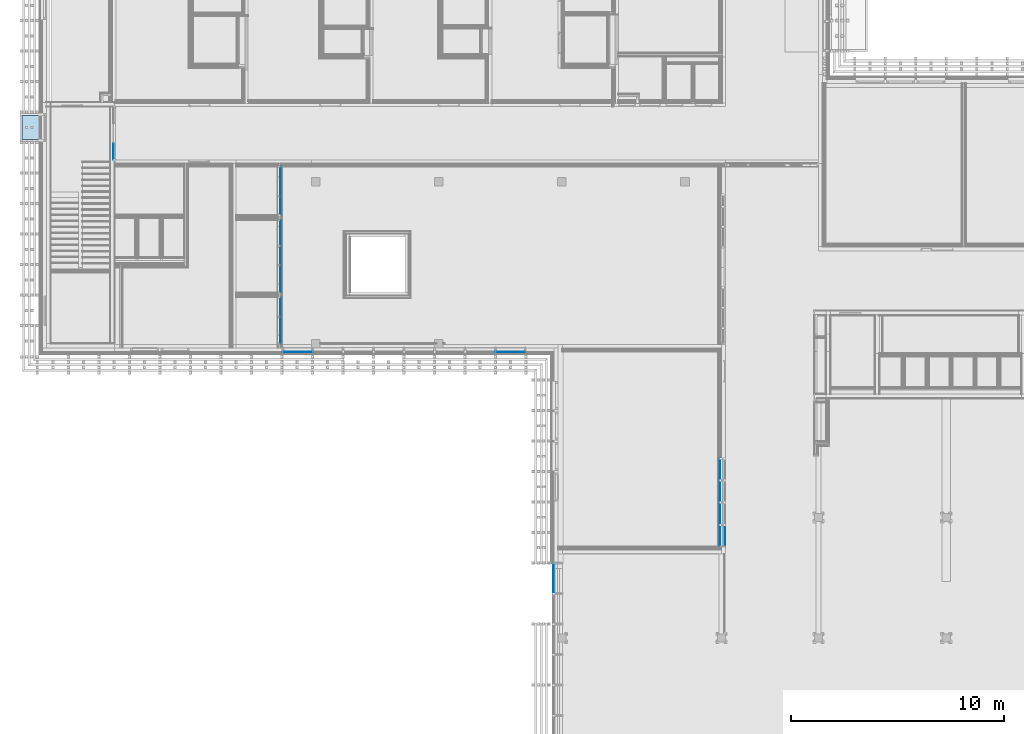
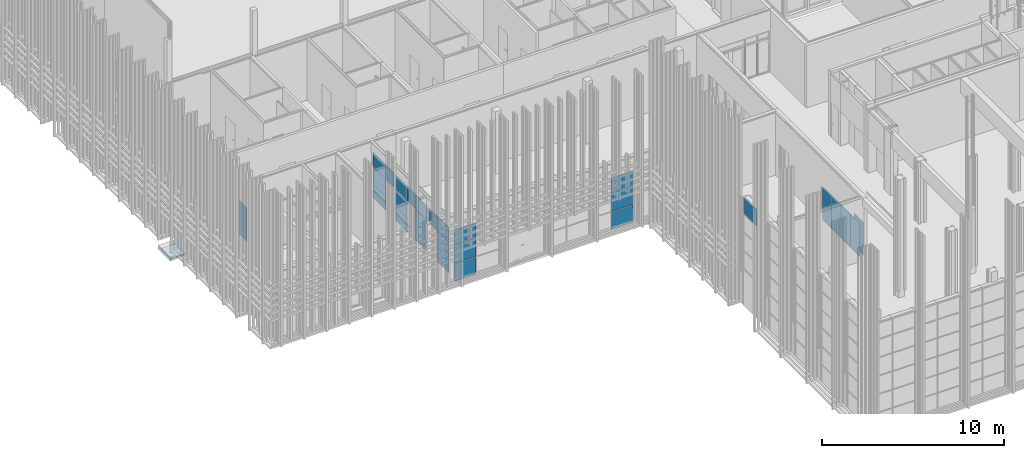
# One storey, part 105 of 260: 24 plates, 1 slab, 8 elements without a shape of their own.
"""IFC2X3 building model written with IfcOpenShell, lengths in millimetres."""

from ifc_helpers import new_model, entity, si_unit, converted_unit, derived_unit, money_unit, direction, frame, origin_with_axes, place, context, subcontext, project, spatial, faceted_brep, material, type_object, element, aggregate, save


model = new_model("IFC2X3")

# Units and contexts
model_context = context("Model", 3, precision=0.01, world=origin_with_axes(), true_north=direction((0.0, 1.0)))
body_context = subcontext(model_context, "Body", "Model", "MODEL_VIEW")
ifc_project = project(units=[si_unit("LENGTHUNIT", "METRE", prefix="MILLI"), si_unit("AREAUNIT", "SQUARE_METRE"), si_unit("VOLUMEUNIT", "CUBIC_METRE"), converted_unit("PLANEANGLEUNIT", "DEGREE", entity("IfcPlaneAngleMeasure", 0.0174532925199), si_unit("PLANEANGLEUNIT", "RADIAN"), dimensions=[0, 0, 0, 0, 0, 0, 0]), money_unit("EUR"), converted_unit("TIMEUNIT", "Year", entity("IfcTimeMeasure", 31556926.0), si_unit("TIMEUNIT", "SECOND"), dimensions=[0, 0, 1, 0, 0, 0, 0]), si_unit("MASSUNIT", "GRAM", prefix="KILO"), si_unit("THERMODYNAMICTEMPERATUREUNIT", "DEGREE_CELSIUS"), si_unit("LUMINOUSINTENSITYUNIT", "LUMEN"), si_unit("ENERGYUNIT", "JOULE", prefix="MEGA"), derived_unit("THERMALCONDUCTANCEUNIT", [(si_unit("POWERUNIT", "WATT"), 1), (si_unit("LENGTHUNIT", "METRE"), -1), (si_unit("THERMODYNAMICTEMPERATUREUNIT", "KELVIN"), -1)]), derived_unit("SPECIFICHEATCAPACITYUNIT", [(si_unit("ENERGYUNIT", "JOULE"), 1), (si_unit("MASSUNIT", "GRAM", prefix="KILO"), -1), (si_unit("THERMODYNAMICTEMPERATUREUNIT", "KELVIN"), -1)]), derived_unit("MASSDENSITYUNIT", [(si_unit("MASSUNIT", "GRAM", prefix="KILO"), 1), (si_unit("VOLUMEUNIT", "CUBIC_METRE"), -1)])], contexts=[model_context])

# Site, building, storey
site_placement = place(None, origin_with_axes())
site = spatial("IfcSite", under=ifc_project, at=site_placement, Name="Kolde pst 67a", CompositionType="ELEMENT")
building_placement = place(site_placement, origin_with_axes())
building = spatial("IfcBuilding", under=site, at=building_placement, Name="Riigigümnaasium", CompositionType="ELEMENT")
storey_placement = place(building_placement, origin_with_axes())
storey = spatial("IfcBuildingStorey", under=building, at=storey_placement, Name="1. korrus", CompositionType="ELEMENT", Elevation=0.0)

# Curtain wall, plate
curtain_wall_type = type_object("IfcCurtainWallType", Name="Curtain Wall Type", PredefinedType="NOTDEFINED")
curtain_wall_1_placement = place(storey_placement, frame((47829.9854655, 8727.77020058, -0.000749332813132), z_axis=(0.0, 0.0, 1.0), x_axis=(1.0, 0.0, 0.0)))
curtain_wall_1 = element("IfcCurtainWall", 1, at=curtain_wall_1_placement, inside=storey, type_object=curtain_wall_type, Name="KLAASFASSAAD")
ifc_material_1 = material(Name="_KLAAS - kirgas")
plate_type_1 = type_object("IfcPlateType", Name="Main Panel 915 x 1075 x 33", PredefinedType="NOTDEFINED")
plate_1_placement = place(curtain_wall_1_placement, frame((-23999.8819546, 28465.9752725, 6782.85727675), z_axis=(0.0, 0.0, 1.0), x_axis=(-7.64768489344e-06, -0.999999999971, 0.0)))
plate_1 = element("IfcPlate", 2, at=plate_1_placement, type_object=plate_type_1, material=ifc_material_1, Name="RF PANEEL PEAMINE-189", context=body_context, shape_type="Brep", body=[
    faceted_brep([(-746.752649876, 16.5, 447.14239557), (-746.752649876, -16.5, 447.14239557), (-241.298937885, -16.5, 447.142352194), (-241.298937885, 16.5, 447.142352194), (-746.752649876, 16.5, -627.856517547), (-746.752649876, -16.5, -627.856517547), (-241.298937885, -16.5, -627.856517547), (673.701047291, -16.5, -627.856517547), (673.701047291, -16.5, 447.142352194), (673.701047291, 16.5, 447.142352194), (673.701047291, 16.5, -627.856517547), (-241.298937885, 16.5, -627.856517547)], [[[0, 1, 2, 3]], [[4, 5, 1, 0]], [[1, 5, 6, 7, 8, 2]], [[3, 2, 8, 9]], [[0, 3, 9, 10, 11, 4]], [[11, 6, 5, 4]], [[10, 7, 6, 11]], [[9, 8, 7, 10]]]),
])
aggregate(curtain_wall_1, [plate_1])

# Curtain wall, plates
curtain_wall_2_placement = place(storey_placement, frame((20393.1746439, 47839.7660528, -0.000116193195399), z_axis=(0.0, 0.0, 1.0), x_axis=(1.0, 0.0, 0.0)))
curtain_wall_2 = element("IfcCurtainWall", 3, at=curtain_wall_2_placement, inside=storey, type_object=curtain_wall_type, Name="KLAASFASSAAD")
plate_type_2 = type_object("IfcPlateType", Name="Main Panel 1385 x 1220 x 33", PredefinedType="NOTDEFINED")
plate_2_placement = place(curtain_wall_2_placement, frame((1425.22323413, 0.0, 1845.00011619), z_axis=(0.0, 0.0, 1.0), x_axis=(1.0, 0.0, 0.0)))
plate_2 = element("IfcPlate", 4, at=plate_2_placement, type_object=plate_type_2, material=ifc_material_1, Name="RF PANEEL PEAMINE-987", context=body_context, shape_type="Brep", body=[
    faceted_brep([(-705.223240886, 16.5, 609.999995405), (-705.223240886, -16.5, 609.999995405), (680.223232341, -16.5, 609.999995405), (680.223232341, 16.5, 609.999995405), (-705.223240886, 16.5, -610.000006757), (-705.223240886, -16.5, -610.000006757), (680.223232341, -16.5, -610.000006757), (680.223232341, 16.5, -610.000006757)], [[[0, 1, 2, 3]], [[4, 5, 1, 0]], [[1, 5, 6, 2]], [[3, 2, 6, 7]], [[0, 3, 7, 4]], [[7, 6, 5, 4]]]),
])
plate_3_placement = place(curtain_wall_2_placement, frame((-8574.89717074, 0.0, 1845.00011619), z_axis=(0.0, 0.0, 1.0), x_axis=(1.0, 0.0, 0.0)))
plate_3 = element("IfcPlate", 5, at=plate_3_placement, type_object=plate_type_2, material=ifc_material_1, Name="RF PANEEL PEAMINE-994", context=body_context, shape_type="Brep", body=[
    faceted_brep([(-679.897168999, 16.5, 610.000004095), (-679.897168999, -16.5, 610.000004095), (704.897166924, -16.5, 610.000004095), (704.897166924, 16.5, 610.000004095), (-679.897168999, 16.5, -609.999996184), (-679.897168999, -16.5, -609.999996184), (704.897166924, -16.5, -609.999996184), (704.897166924, 16.5, -609.999996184)], [[[0, 1, 2, 3]], [[4, 5, 1, 0]], [[1, 5, 6, 2]], [[3, 2, 6, 7]], [[0, 3, 7, 4]], [[7, 6, 5, 4]]]),
])
plate_type_3 = type_object("IfcPlateType", Name="Main Panel 1385 x 995 x 33", PredefinedType="NOTDEFINED")
plate_4_placement = place(curtain_wall_2_placement, frame((1425.22325658, 0.0, 2975.00012984), z_axis=(0.0, 0.0, 1.0), x_axis=(1.0, 0.0, 0.0)))
plate_4 = element("IfcPlate", 6, at=plate_4_placement, type_object=plate_type_3, material=ifc_material_1, Name="RF PANEEL PEAMINE-996", context=body_context, shape_type="Brep", body=[
    faceted_brep([(-705.223263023, 16.5, 485.000010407), (-705.223263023, -16.5, 485.000010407), (680.223297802, -16.5, 485.000010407), (680.223297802, 16.5, 485.000010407), (-705.223263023, 16.5, -510.00002009), (-705.223263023, -16.5, -510.00002009), (680.223213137, -16.5, -510.00002009), (680.223213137, 16.5, -510.00002009)], [[[0, 1, 2, 3]], [[4, 5, 1, 0]], [[1, 5, 6, 2]], [[3, 2, 6, 7]], [[0, 3, 7, 4]], [[7, 6, 5, 4]]]),
])
plate_5_placement = place(curtain_wall_2_placement, frame((-8574.89717074, 0.0, 2975.00015597), z_axis=(0.0, 0.0, 1.0), x_axis=(1.0, 0.0, 0.0)))
plate_5 = element("IfcPlate", 7, at=plate_5_placement, type_object=plate_type_3, material=ifc_material_1, Name="RF PANEEL PEAMINE-003", context=body_context, shape_type="Brep", body=[
    faceted_brep([(-679.897168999, 16.5, 485.000025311), (-679.897168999, -16.5, 485.000025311), (704.897166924, -16.5, 485.000046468), (704.897166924, 16.5, 485.000046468), (-679.897168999, 16.5, -510.000035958), (-679.897168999, -16.5, -510.000035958), (704.897166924, -16.5, -510.000035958), (704.897166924, 16.5, -510.000035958)], [[[0, 1, 2, 3]], [[4, 5, 1, 0]], [[1, 5, 6, 2]], [[3, 2, 6, 7]], [[0, 3, 7, 4]], [[7, 6, 5, 4]]]),
])
plate_type_4 = type_object("IfcPlateType", Name="Turvaklaas 1385 x 1195 x 33", PredefinedType="CURTAIN_PANEL")
plate_6_placement = place(curtain_wall_2_placement, frame((-8574.89717074, 0.0, 615.000058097), z_axis=(0.0, 0.0, 1.0), x_axis=(1.0, 0.0, 0.0)))
plate_6 = element("IfcPlate", 8, at=plate_6_placement, type_object=plate_type_4, material=ifc_material_1, Name="Panel-Turvaklaas-005", ObjectType="CURTAIN_PANEL", context=body_context, shape_type="Brep", body=[
    faceted_brep([(-679.897168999, 16.5, 610.000051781), (-679.897168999, -16.5, 610.000051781), (704.897166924, -16.5, 610.000051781), (704.897166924, 16.5, 610.000051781), (-679.897168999, 16.5, -585.000056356), (-679.897168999, -16.5, -585.000056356), (704.897166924, -16.5, -585.000056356), (704.897166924, 16.5, -585.000056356)], [[[0, 1, 2, 3]], [[4, 5, 1, 0]], [[1, 5, 6, 2]], [[3, 2, 6, 7]], [[0, 3, 7, 4]], [[7, 6, 5, 4]]]),
])
plate_7_placement = place(curtain_wall_2_placement, frame((1425.22323413, 0.0, 615.000058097), z_axis=(0.0, 0.0, 1.0), x_axis=(1.0, 0.0, 0.0)))
plate_7 = element("IfcPlate", 9, at=plate_7_placement, type_object=plate_type_4, material=ifc_material_1, Name="Panel-Turvaklaas-006", ObjectType="CURTAIN_PANEL", context=body_context, shape_type="Brep", body=[
    faceted_brep([(-705.223240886, 16.5, 610.000064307), (-705.223240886, -16.5, 610.000064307), (680.223232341, -16.5, 610.000064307), (680.223232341, 16.5, 610.000064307), (-705.223240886, 16.5, -585.000056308), (-705.223240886, -16.5, -585.000056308), (680.223232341, -16.5, -585.000056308), (680.223232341, 16.5, -585.000056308)], [[[0, 1, 2, 3]], [[4, 5, 1, 0]], [[1, 5, 6, 2]], [[3, 2, 6, 7]], [[0, 3, 7, 4]], [[7, 6, 5, 4]]]),
])
aggregate(curtain_wall_2, [plate_2, plate_4, plate_6, plate_3, plate_7, plate_5])

# Curtain wall, plate
curtain_wall_3_placement = place(storey_placement, frame((11015.6058867, 55913.7308132, 399.999999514), z_axis=(0.0, 0.0, 1.0), x_axis=(1.0, 0.0, 0.0)))
curtain_wall_3 = element("IfcCurtainWall", 10, at=curtain_wall_3_placement, inside=storey, type_object=curtain_wall_type, Name="KLAASSEIN")
ifc_material_2 = material(Name="_GENEERILINE MATERJAL KLAAS")
plate_type_5 = type_object("IfcPlateType", Name="Distinct Panel 20 x 5 x 20", PredefinedType="NOTDEFINED")
plate_8_placement = place(curtain_wall_3_placement, frame((0.0, 0.0, 1050.00001335), z_axis=(0.0, 0.0, 1.0), x_axis=(1.11147909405e-05, 0.999999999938, 0.0)))
plate_8 = element("IfcPlate", 11, at=plate_8_placement, type_object=plate_type_5, material=ifc_material_2, Name="RF PANEEL ERI-052", context=body_context, shape_type="Brep", body=[
    faceted_brep([(-789.369953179, 10.0, 1050.00001286), (-789.369953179, -10.0, 1050.00001286), (-769.369935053, -10.0, 1050.00001286), (-769.369935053, 10.0, 1050.00001286), (-789.369953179, 10.0, -1050.00001286), (-789.369953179, -10.0, -1050.00001286), (-769.369935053, -10.0, -1050.00001286), (-769.369935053, -10.0, -1030.00002603), (130.630035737, -10.0, -1030.00002603), (618.739914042, -10.0, -1030.00002603), (618.739914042, -10.0, 1045.00000833), (130.630035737, -10.0, 1045.00000833), (-769.369935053, -10.0, 1045.00000833), (-769.369935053, 10.0, 1045.00000833), (130.630035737, 10.0, 1045.00000833), (618.739914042, 10.0, 1045.00000833), (618.739914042, 10.0, -1030.00002603), (130.630035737, 10.0, -1030.00002603), (-769.369935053, 10.0, -1030.00002603), (-769.369935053, 10.0, -1050.00001286)], [[[0, 1, 2, 3]], [[4, 5, 1, 0]], [[1, 5, 6, 7, 8, 9, 10, 11, 12, 2]], [[3, 2, 12, 13]], [[0, 3, 13, 14, 15, 16, 17, 18, 19, 4]], [[19, 6, 5, 4]], [[18, 7, 6, 19]], [[17, 8, 7, 18]], [[16, 9, 8, 17]], [[15, 10, 9, 16]], [[14, 11, 10, 15]], [[13, 12, 11, 14]]]),
])

curtain_wall_4_placement = place(storey_placement, frame((11015.3356079, 51182.3220161, 399.999976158), z_axis=(0.0, 0.0, 1.0), x_axis=(1.0, 0.0, 0.0)))
curtain_wall_4 = element("IfcCurtainWall", 12, at=curtain_wall_4_placement, inside=storey, type_object=curtain_wall_type, Name="KLAASSEIN")
plate_9_placement = place(curtain_wall_4_placement, frame((0.0, 0.0, 1050.00002776), z_axis=(0.0, 0.0, 1.0), x_axis=(-1.11147909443e-05, -0.999999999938, 0.0)))
plate_9 = element("IfcPlate", 13, at=plate_9_placement, type_object=plate_type_5, material=ifc_material_2, Name="RF PANEEL ERI-052", context=body_context, shape_type="Brep", body=[
    faceted_brep([(-714.685903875, -10.0, 1050.00000988), (-694.685885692, -10.0, 1050.00000988), (-694.685885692, 10.0, 1050.00000988), (-714.685903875, 10.0, 1050.00000988), (-714.685903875, -10.0, -1050.0000218), (-694.685885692, -10.0, -1050.0000218), (-694.685885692, -10.0, -1030.00003491), (142.344596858, -10.0, -1030.00003491), (532.343605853, -10.0, -1030.00003491), (532.343605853, -10.0, 1045.00000533), (142.344596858, -10.0, 1045.00000533), (-694.685885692, -10.0, 1045.00000533), (-694.685885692, 10.0, 1045.00000533), (142.344596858, 10.0, 1045.00000533), (532.343605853, 10.0, 1045.00000533), (532.343605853, 10.0, -1030.00003491), (142.344596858, 10.0, -1030.00003491), (-694.685885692, 10.0, -1030.00003491), (-694.685885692, 10.0, -1050.0000218), (-714.685903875, 10.0, -1050.0000218)], [[[0, 1, 2, 3]], [[0, 4, 5, 6, 7, 8, 9, 10, 11, 1]], [[1, 11, 12, 2]], [[3, 2, 12, 13, 14, 15, 16, 17, 18, 19]], [[4, 0, 3, 19]], [[5, 4, 19, 18]], [[6, 5, 18, 17]], [[7, 6, 17, 16]], [[8, 7, 16, 15]], [[9, 8, 15, 14]], [[10, 9, 14, 13]], [[11, 10, 13, 12]]]),
])

curtain_wall_5_placement = place(storey_placement, frame((11015.4348778, 48773.3132292, 399.999999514), z_axis=(0.0, 0.0, 1.0), x_axis=(1.0, 0.0, 0.0)))
curtain_wall_5 = element("IfcCurtainWall", 14, at=curtain_wall_5_placement, inside=storey, type_object=curtain_wall_type, Name="KLAASSEIN")
plate_10_placement = place(curtain_wall_5_placement, frame((0.0, 0.0, 1050.0000131), z_axis=(0.0, 0.0, 1.0), x_axis=(1.09154223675e-05, -0.99999999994, 0.0)))
plate_10 = element("IfcPlate", 15, at=plate_10_placement, type_object=plate_type_5, material=ifc_material_2, Name="RF PANEEL ERI-053", context=body_context, shape_type="Brep", body=[
    faceted_brep([(-736.666201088, -10.0, 1050.0000131), (-716.666182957, -10.0, 1050.0000131), (-716.666182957, 10.0, 1050.0000131), (-736.666201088, 10.0, 1050.0000131), (-736.666201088, -10.0, -1050.0000131), (-716.666182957, -10.0, -1050.0000131), (-716.666182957, -10.0, -1030.00002626), (143.333814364, -10.0, -1030.00002626), (553.332402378, -10.0, -1030.00002626), (553.332402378, -10.0, 1045.00000857), (143.333814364, -10.0, 1045.00000857), (-716.666182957, -10.0, 1045.00000857), (-716.666182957, 10.0, 1045.00000857), (143.333814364, 10.0, 1045.00000857), (553.332402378, 10.0, 1045.00000857), (553.332402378, 10.0, -1030.00002626), (143.333814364, 10.0, -1030.00002626), (-716.666182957, 10.0, -1030.00002626), (-716.666182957, 10.0, -1050.0000131), (-736.666201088, 10.0, -1050.0000131)], [[[0, 1, 2, 3]], [[0, 4, 5, 6, 7, 8, 9, 10, 11, 1]], [[1, 11, 12, 2]], [[3, 2, 12, 13, 14, 15, 16, 17, 18, 19]], [[4, 0, 3, 19]], [[5, 4, 19, 18]], [[6, 5, 18, 17]], [[7, 6, 17, 16]], [[8, 7, 16, 15]], [[9, 8, 15, 14]], [[10, 9, 14, 13]], [[11, 10, 13, 12]]]),
])

curtain_wall_6_placement = place(storey_placement, frame((3185.44852283, 58094.9979478, 0.0), z_axis=(0.0, 0.0, 1.0), x_axis=(1.0, 0.0, 0.0)))
curtain_wall_6 = element("IfcCurtainWall", 16, at=curtain_wall_6_placement, inside=storey, type_object=curtain_wall_type, Name="KLAASSEIN")
plate_type_6 = type_object("IfcPlateType", Name="Distinct Panel 20 x 2300 x 20", PredefinedType="NOTDEFINED")
plate_11_placement = place(curtain_wall_6_placement, frame((0.0, -877.500004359, 1150.0000447), z_axis=(0.0, 0.0, 1.0), x_axis=(0.0, 1.0, 0.0)))
plate_11 = element("IfcPlate", 17, at=plate_11_placement, type_object=plate_type_6, material=ifc_material_2, Name="RF PANEEL ERI-051", context=body_context, shape_type="Brep", body=[
    faceted_brep([(377.499996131, -10.0, 1150.0000447), (397.500004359, -10.0, 1150.0000447), (397.500004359, 10.0, 1150.0000447), (377.499996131, 10.0, 1150.0000447), (377.499996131, -10.0, 1130.00003648), (-357.5000235, -10.0, 1130.00003648), (-357.5000235, -10.0, -1130.00003648), (377.499996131, -10.0, -1130.00003648), (377.499996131, -10.0, -1150.0000447), (397.500004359, -10.0, -1150.0000447), (397.500004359, 10.0, -1150.0000447), (377.499996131, 10.0, -1150.0000447), (377.499996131, 10.0, -1130.00003648), (-357.5000235, 10.0, -1130.00003648), (-357.5000235, 10.0, 1130.00003648), (377.499996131, 10.0, 1130.00003648)], [[[0, 1, 2, 3]], [[0, 4, 5, 6, 7, 8, 9, 1]], [[1, 9, 10, 2]], [[3, 2, 10, 11, 12, 13, 14, 15]], [[4, 0, 3, 15]], [[5, 4, 15, 14]], [[6, 5, 14, 13]], [[7, 6, 13, 12]], [[8, 7, 12, 11]], [[9, 8, 11, 10]]]),
])
aggregate(curtain_wall_6, [plate_11])

# Plate
plate_type_7 = type_object("IfcPlateType", Name="Distinct Panel 20 x 20 x 20", PredefinedType="NOTDEFINED")
plate_12_placement = place(curtain_wall_3_placement, frame((0.0, -2.86575385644e-06, 2595.00002728), z_axis=(0.0, 0.0, 1.0), x_axis=(1.11147909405e-05, 0.999999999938, 0.0)))
plate_12 = element("IfcPlate", 18, at=plate_12_placement, type_object=plate_type_7, material=ifc_material_2, Name="RF PANEEL ERI-060", context=body_context, shape_type="Brep", body=[
    faceted_brep([(-789.369947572, 10.0, 494.999996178), (-789.369947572, -10.0, 494.999996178), (-769.369939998, -10.0, 494.999996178), (-769.369939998, 10.0, 494.999996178), (-789.369947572, 10.0, -495.000001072), (-789.369947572, -10.0, -495.000001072), (-769.369939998, -10.0, -495.000001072), (-769.369939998, -10.0, -489.999999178), (130.630065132, -10.0, -489.999999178), (618.739896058, -10.0, -489.999999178), (618.739896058, -10.0, 474.999988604), (130.630065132, -10.0, 474.999988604), (-769.369939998, -10.0, 474.999988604), (-769.369939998, 10.0, 474.999988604), (130.630065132, 10.0, 474.999988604), (618.739896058, 10.0, 474.999988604), (618.739896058, 10.0, -489.999999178), (130.630065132, 10.0, -489.999999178), (-769.369939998, 10.0, -489.999999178), (-769.369939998, 10.0, -495.000001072)], [[[0, 1, 2, 3]], [[4, 5, 1, 0]], [[1, 5, 6, 7, 8, 9, 10, 11, 12, 2]], [[3, 2, 12, 13]], [[0, 3, 13, 14, 15, 16, 17, 18, 19, 4]], [[19, 6, 5, 4]], [[18, 7, 6, 19]], [[17, 8, 7, 18]], [[16, 9, 8, 17]], [[15, 10, 9, 16]], [[14, 11, 10, 15]], [[13, 12, 11, 14]]]),
])

plate_13_placement = place(curtain_wall_4_placement, frame((0.0, -1.88781967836e-06, 2595.00003994), z_axis=(0.0, 0.0, 1.0), x_axis=(-1.11147909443e-05, -0.999999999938, 0.0)))
plate_13 = element("IfcPlate", 19, at=plate_13_placement, type_object=plate_type_7, material=ifc_material_2, Name="RF PANEEL ERI-061", context=body_context, shape_type="Brep", body=[
    faceted_brep([(-714.68590318, -10.0, 495.0000105), (-694.685894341, -10.0, 495.0000105), (-694.685894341, 10.0, 495.0000105), (-714.68590318, 10.0, 495.0000105), (-714.68590318, -10.0, -494.999990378), (-694.685894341, -10.0, -494.999990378), (-694.685894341, -10.0, -489.999983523), (142.344594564, -10.0, -489.999983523), (532.343586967, -10.0, -489.999983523), (532.343586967, -10.0, 474.999945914), (142.344594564, -10.0, 475.000001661), (-694.685894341, -10.0, 475.000001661), (-694.685894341, 10.0, 475.000001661), (142.344594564, 10.0, 475.000001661), (532.343586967, 10.0, 474.999945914), (532.343586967, 10.0, -489.999983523), (142.344594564, 10.0, -489.999983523), (-694.685894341, 10.0, -489.999983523), (-694.685894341, 10.0, -494.999990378), (-714.68590318, 10.0, -494.999990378)], [[[0, 1, 2, 3]], [[0, 4, 5, 6, 7, 8, 9, 10, 11, 1]], [[1, 11, 12, 2]], [[3, 2, 12, 13, 14, 15, 16, 17, 18, 19]], [[4, 0, 3, 19]], [[5, 4, 19, 18]], [[6, 5, 18, 17]], [[7, 6, 17, 16]], [[8, 7, 16, 15]], [[9, 8, 15, 14]], [[10, 9, 14, 13]], [[11, 10, 13, 12]]]),
])

plate_14_placement = place(curtain_wall_4_placement, frame((0.0112890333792, 1015.67662754, 2595.00005063), z_axis=(0.0, 0.0, 1.0), x_axis=(-1.11147909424e-05, -0.999999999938, 0.0)))
plate_14 = element("IfcPlate", 20, at=plate_14_placement, type_object=plate_type_7, material=ifc_material_2, Name="RF PANEEL ERI-064", context=body_context, shape_type="Brep", body=[
    faceted_brep([(-599.01014661, -10.0, 495.000001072), (-579.010151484, -10.0, 495.000001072), (-579.010151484, 10.0, 495.000001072), (-599.01014661, 10.0, 495.000001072), (-599.010161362, -10.0, -495.000001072), (-579.010151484, -10.0, -495.000001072), (-579.010151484, -10.0, -490.000005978), (258.020328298, -10.0, -490.000005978), (320.989835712, -10.0, -490.000005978), (320.98982096, -10.0, -495.000001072), (340.989830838, -10.0, -495.000001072), (340.989830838, -10.0, 495.000001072), (320.989835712, -10.0, 495.000001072), (320.989835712, -10.0, 475.000005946), (258.020328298, -10.0, 475.000005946), (-579.010151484, -10.0, 475.000005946), (-579.010151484, 10.0, 475.000005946), (258.020328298, 10.0, 475.000005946), (320.989835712, 10.0, 475.000005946), (320.989835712, 10.0, 495.000001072), (340.989830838, 10.0, 495.000001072), (340.989830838, 10.0, -495.000001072), (320.98982096, 10.0, -495.000001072), (320.989835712, 10.0, -490.000005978), (258.020328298, 10.0, -490.000005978), (-579.010151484, 10.0, -490.000005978), (-579.010151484, 10.0, -495.000001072), (-599.010161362, 10.0, -495.000001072)], [[[0, 1, 2, 3]], [[0, 4, 5, 6, 7, 8, 9, 10, 11, 12, 13, 14, 15, 1]], [[1, 15, 16, 2]], [[3, 2, 16, 17, 18, 19, 20, 21, 22, 23, 24, 25, 26, 27]], [[4, 0, 3, 27]], [[5, 4, 27, 26]], [[6, 5, 26, 25]], [[7, 6, 25, 24]], [[8, 7, 24, 23]], [[9, 8, 23, 22]], [[10, 9, 22, 21]], [[11, 10, 21, 20]], [[12, 11, 20, 19]], [[13, 12, 19, 18]], [[14, 13, 18, 17]], [[15, 14, 17, 16]]]),
])

plate_15_placement = place(curtain_wall_5_placement, frame((-0.00124227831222, 113.80945866, 2524.28574139), z_axis=(0.0, 0.0, 1.0), x_axis=(1.09154223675e-05, -0.99999999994, 0.0)))
plate_15 = element("IfcPlate", 21, at=plate_15_placement, type_object=plate_type_7, material=ifc_material_2, Name="RF PANEEL ERI-060", context=body_context, shape_type="Brep", body=[
    faceted_brep([(-662.856737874, -10.0, 565.714283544), (-642.856737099, -10.0, 565.714283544), (-642.856737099, 10.0, 565.714283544), (-662.856737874, 10.0, 565.714283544), (-662.856737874, -10.0, -424.285715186), (-642.856737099, -10.0, -424.285715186), (-642.856737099, -10.0, -419.285714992), (-602.856735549, -10.0, -419.285714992), (257.143258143, -10.0, -419.285714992), (667.141847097, -10.0, -419.285714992), (667.141847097, -10.0, 545.714282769), (257.143258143, -10.0, 545.714282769), (-642.856737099, -10.0, 545.714282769), (-642.856737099, 10.0, 545.714282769), (257.143258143, 10.0, 545.714282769), (667.141847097, 10.0, 545.714282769), (667.141847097, 10.0, -419.285714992), (257.143258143, 10.0, -419.285714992), (-602.856735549, 10.0, -419.285714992), (-642.856737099, 10.0, -419.285714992), (-642.856737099, 10.0, -424.285715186), (-662.856737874, 10.0, -424.285715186)], [[[0, 1, 2, 3]], [[0, 4, 5, 6, 7, 8, 9, 10, 11, 12, 1]], [[1, 12, 13, 2]], [[3, 2, 13, 14, 15, 16, 17, 18, 19, 20, 21]], [[4, 0, 3, 21]], [[5, 4, 21, 20]], [[6, 5, 20, 19]], [[7, 6, 19, 18]], [[8, 7, 18, 17]], [[9, 8, 17, 16]], [[10, 9, 16, 15]], [[11, 10, 15, 14]], [[12, 11, 14, 13]]]),
])

# Curtain wall, plates
curtain_wall_7_placement = place(storey_placement, frame((31639.955711, 40257.4808267, -4.08979272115e-05), z_axis=(0.0, 0.0, 1.0), x_axis=(1.0, 0.0, 0.0)))
curtain_wall_7 = element("IfcCurtainWall", 22, at=curtain_wall_7_placement, inside=storey, type_object=curtain_wall_type, Name="KLAASSEIN")
plate_type_8 = type_object("IfcPlateType", Name="Distinct Panel 1035 x 2240 x 20", PredefinedType="NOTDEFINED")
plate_16_placement = place(curtain_wall_7_placement, frame((0.0, 0.0, 1150.00010566), z_axis=(0.0, 0.0, 1.0), x_axis=(0.0, -1.0, 0.0)))
plate_16 = element("IfcPlate", 23, at=plate_16_placement, type_object=plate_type_8, material=ifc_material_2, Name="RF PANEEL ERI-026", context=body_context, shape_type="Brep", body=[
    faceted_brep([(-517.499999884, 10.0, 1120.0001017), (-517.499999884, -10.0, 1120.0001017), (517.499989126, -10.0, 1120.0001017), (517.499989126, 10.0, 1120.0001017), (-517.499999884, 10.0, -1120.00010896), (-517.499999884, -10.0, -1120.00010896), (517.499989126, -10.0, -1120.00010896), (517.499989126, 10.0, -1120.00010896)], [[[0, 1, 2, 3]], [[4, 5, 1, 0]], [[1, 5, 6, 2]], [[3, 2, 6, 7]], [[0, 3, 7, 4]], [[7, 6, 5, 4]]]),
])
plate_17_placement = place(curtain_wall_7_placement, frame((0.0, 1045.0, 1150.00010566), z_axis=(0.0, 0.0, 1.0), x_axis=(0.0, -1.0, 0.0)))
plate_17 = element("IfcPlate", 24, at=plate_17_placement, type_object=plate_type_8, material=ifc_material_2, Name="RF PANEEL ERI-027", context=body_context, shape_type="Brep", body=[
    faceted_brep([(-517.499999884, 10.0, 1120.0001017), (-517.499999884, -10.0, 1120.0001017), (517.499989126, -10.0, 1120.0001017), (517.499989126, 10.0, 1120.0001017), (-517.499999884, 10.0, -1120.00010896), (-517.499999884, -10.0, -1120.00010896), (517.499989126, -10.0, -1120.00010896), (517.499989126, 10.0, -1120.00010896)], [[[0, 1, 2, 3]], [[4, 5, 1, 0]], [[1, 5, 6, 2]], [[3, 2, 6, 7]], [[0, 3, 7, 4]], [[7, 6, 5, 4]]]),
])

# Curtain wall, plate
curtain_wall_8_placement = place(storey_placement, frame((31858.898599, 40257.4808267, -3.66549283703e-05), z_axis=(0.0, 0.0, 1.0), x_axis=(1.0, 0.0, 0.0)))
curtain_wall_8 = element("IfcCurtainWall", 25, at=curtain_wall_8_placement, inside=storey, type_object=curtain_wall_type, Name="KLAASSEIN")
plate_type_9 = type_object("IfcPlateType", Name="Distinct Panel 999 x 2240 x 20", PredefinedType="NOTDEFINED")
plate_18_placement = place(curtain_wall_8_placement, frame((0.0, -1039.49984757, 1150.00010203), z_axis=(0.0, 0.0, 1.0), x_axis=(0.0, -1.0, 0.0)))
plate_18 = element("IfcPlate", 26, at=plate_18_placement, type_object=plate_type_9, material=ifc_material_2, Name="RF PANEEL ERI-025", context=body_context, shape_type="Brep", body=[
    faceted_brep([(-511.99984735, -10.0, 1120.00010533), (486.999850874, -10.0, 1120.00010533), (486.999850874, 10.0, 1120.00010533), (-511.99984735, 10.0, 1120.00010533), (-511.99984735, -10.0, -1120.00010533), (486.999850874, -10.0, -1120.00010533), (486.999850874, 10.0, -1120.00010533), (-511.99984735, 10.0, -1120.00010533)], [[[0, 1, 2, 3]], [[0, 4, 5, 1]], [[1, 5, 6, 2]], [[3, 2, 6, 7]], [[4, 0, 3, 7]], [[5, 4, 7, 6]]]),
])
aggregate(curtain_wall_8, [plate_18])

# Plate
plate_19_placement = place(curtain_wall_7_placement, frame((0.0, -1039.49983621, 1150.00010566), z_axis=(0.0, 0.0, 1.0), x_axis=(0.0, -1.0, 0.0)))
plate_19 = element("IfcPlate", 27, at=plate_19_placement, type_object=plate_type_9, material=ifc_material_2, Name="RF PANEEL ERI-025", context=body_context, shape_type="Brep", body=[
    faceted_brep([(-511.999835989, 10.0, 1120.0001017), (-511.999835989, -10.0, 1120.0001017), (486.999862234, -10.0, 1120.0001017), (486.999862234, 10.0, 1120.0001017), (-511.999835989, 10.0, -1120.00010896), (-511.999835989, -10.0, -1120.00010896), (486.999862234, -10.0, -1120.00010896), (486.999862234, 10.0, -1120.00010896)], [[[0, 1, 2, 3]], [[4, 5, 1, 0]], [[1, 5, 6, 2]], [[3, 2, 6, 7]], [[0, 3, 7, 4]], [[7, 6, 5, 4]]]),
])

plate_type_10 = type_object("IfcPlateType", Name="Distinct Panel 1010 x 2240 x 20", PredefinedType="NOTDEFINED")
plate_20_placement = place(curtain_wall_7_placement, frame((0.0, 2089.83864575, 1150.00010566), z_axis=(0.0, 0.0, 1.0), x_axis=(0.0, -1.0, 0.0)))
plate_20 = element("IfcPlate", 28, at=plate_20_placement, type_object=plate_type_10, material=ifc_material_2, Name="RF PANEEL ERI-029", context=body_context, shape_type="Brep", body=[
    faceted_brep([(-492.338656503, 10.0, 1120.0001017), (-492.338656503, -10.0, 1120.0001017), (517.338634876, -10.0, 1120.0001017), (517.338634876, 10.0, 1120.0001017), (-492.338656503, 10.0, -1120.00010896), (-492.338656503, -10.0, -1120.00010896), (517.338634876, -10.0, -1120.00010896), (517.338634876, 10.0, -1120.00010896)], [[[0, 1, 2, 3]], [[4, 5, 1, 0]], [[1, 5, 6, 2]], [[3, 2, 6, 7]], [[0, 3, 7, 4]], [[7, 6, 5, 4]]]),
])

aggregate(curtain_wall_7, [plate_16, plate_17, plate_19, plate_20])

plate_type_11 = type_object("IfcPlateType", Name="Distinct Panel 20 x 990 x 20", PredefinedType="NOTDEFINED")
plate_21_placement = place(curtain_wall_3_placement, frame((-0.0135530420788, -1219.36995036, 2595.00002728), z_axis=(0.0, 0.0, 1.0), x_axis=(1.11147909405e-05, 0.999999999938, 0.0)))
plate_21 = element("IfcPlate", 29, at=plate_21_placement, type_object=plate_type_11, material=ifc_material_2, Name="RF PANEEL ERI-058", context=body_context, shape_type="Brep", body=[
    faceted_brep([(450.000004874, 10.0, 495.000001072), (450.000004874, -10.0, 495.000001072), (470.0, -10.0, 495.000001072), (470.0, 10.0, 495.000001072), (450.000004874, 10.0, 475.000005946), (450.000004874, -10.0, 475.000005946), (-430.000001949, -10.0, 475.000005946), (-430.000001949, -10.0, -490.000005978), (450.000004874, -10.0, -490.000005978), (450.000004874, -10.0, -495.000001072), (470.0, -10.0, -495.000001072), (470.0, 10.0, -495.000001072), (450.000004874, 10.0, -495.000001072), (450.000004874, 10.0, -490.000005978), (-430.000001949, 10.0, -490.000005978), (-430.000001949, 10.0, 475.000005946)], [[[0, 1, 2, 3]], [[4, 5, 1, 0]], [[1, 5, 6, 7, 8, 9, 10, 2]], [[3, 2, 10, 11]], [[0, 3, 11, 12, 13, 14, 15, 4]], [[15, 6, 5, 4]], [[14, 7, 6, 15]], [[13, 8, 7, 14]], [[12, 9, 8, 13]], [[11, 10, 9, 12]]]),
])

aggregate(curtain_wall_3, [plate_8, plate_12, plate_21])

plate_22_placement = place(curtain_wall_4_placement, frame((0.0240987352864, 2168.1681113, 2595.00004202), z_axis=(0.0, 0.0, 1.0), x_axis=(-1.11147909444e-05, -0.999999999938, 0.0)))
plate_22 = element("IfcPlate", 30, at=plate_22_placement, type_object=plate_type_11, material=ifc_material_2, Name="RF PANEEL ERI-060", context=body_context, shape_type="Brep", body=[
    faceted_brep([(573.481329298, -10.0, 495.000011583), (593.48133167, -10.0, 495.000011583), (593.48133167, 10.0, 495.000011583), (573.481329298, 10.0, 495.000011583), (573.481329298, -10.0, 475.000009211), (510.51180808, -10.0, 475.000009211), (-389.48818529, -10.0, 475.000009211), (-674.504950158, -10.0, 474.999933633), (-674.504950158, -10.0, -490.000001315), (-389.48818529, -10.0, -490.000001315), (510.51180808, -10.0, -490.000001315), (573.481329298, -10.0, -490.000001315), (573.481329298, -10.0, -494.999992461), (593.48133167, -10.0, -494.999992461), (593.48133167, 10.0, -494.999992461), (573.481329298, 10.0, -494.999992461), (573.481329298, 10.0, -490.000001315), (510.51180808, 10.0, -490.000001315), (-389.48818529, 10.0, -490.000001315), (-674.504950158, 10.0, -490.000001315), (-674.504950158, 10.0, 474.999933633), (-389.48818529, 10.0, 475.000009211), (510.51180808, 10.0, 475.000009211), (573.481329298, 10.0, 475.000009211)], [[[0, 1, 2, 3]], [[0, 4, 5, 6, 7, 8, 9, 10, 11, 12, 13, 1]], [[1, 13, 14, 2]], [[3, 2, 14, 15, 16, 17, 18, 19, 20, 21, 22, 23]], [[4, 0, 3, 23]], [[5, 4, 23, 22]], [[6, 5, 22, 21]], [[7, 6, 21, 20]], [[8, 7, 20, 19]], [[9, 8, 19, 18]], [[10, 9, 18, 17]], [[11, 10, 17, 16]], [[12, 11, 16, 15]], [[13, 12, 15, 14]]]),
])

plate_23_placement = place(curtain_wall_5_placement, frame((-0.0131712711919, 1206.66619647, 2595.00002728), z_axis=(0.0, 0.0, 1.0), x_axis=(1.09154223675e-05, -0.99999999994, 0.0)))
plate_23 = element("IfcPlate", 31, at=plate_23_placement, type_object=plate_type_11, material=ifc_material_2, Name="RF PANEEL ERI-058", context=body_context, shape_type="Brep", body=[
    faceted_brep([(450.000004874, -10.0, 495.000001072), (470.0, -10.0, 495.000001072), (470.0, 10.0, 495.000001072), (450.000004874, 10.0, 495.000001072), (450.000004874, -10.0, 475.000005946), (-430.000001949, -10.0, 475.000005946), (-430.000001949, -10.0, -490.000005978), (450.000004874, -10.0, -490.000005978), (450.000004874, -10.0, -495.000001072), (470.0, -10.0, -495.000001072), (470.0, 10.0, -495.000001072), (450.000004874, 10.0, -495.000001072), (450.000004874, 10.0, -490.000005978), (-430.000001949, 10.0, -490.000005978), (-430.000001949, 10.0, 475.000005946), (450.000004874, 10.0, 475.000005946)], [[[0, 1, 2, 3]], [[0, 4, 5, 6, 7, 8, 9, 1]], [[1, 9, 10, 2]], [[3, 2, 10, 11, 12, 13, 14, 15]], [[4, 0, 3, 15]], [[5, 4, 15, 14]], [[6, 5, 14, 13]], [[7, 6, 13, 12]], [[8, 7, 12, 11]], [[9, 8, 11, 10]]]),
])

aggregate(curtain_wall_5, [plate_10, plate_15, plate_23])

plate_type_12 = type_object("IfcPlateType", Name="Distinct Panel 20 x 2100 x 20", PredefinedType="NOTDEFINED")
plate_24_placement = place(curtain_wall_4_placement, frame((0.0240987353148, 2168.16811393, 1050.00002776), z_axis=(0.0, 0.0, 1.0), x_axis=(-1.11147909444e-05, -0.999999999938, 0.0)))
plate_24 = element("IfcPlate", 32, at=plate_24_placement, type_object=plate_type_12, material=ifc_material_2, Name="RF PANEEL ERI-058", context=body_context, shape_type="Brep", body=[
    faceted_brep([(573.481338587, -10.0, 1050.0000218), (593.481325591, -10.0, 1050.0000218), (593.481325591, 10.0, 1050.0000218), (573.481338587, 10.0, 1050.0000218), (573.481338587, -10.0, 1045.00001723), (510.511816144, -10.0, 1045.00001723), (-389.488162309, -10.0, 1045.00001723), (-674.50494546, -10.0, 1045.00001723), (-674.50494546, -10.0, -1030.0000348), (-389.488162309, -10.0, -1030.0000348), (510.511816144, -10.0, -1030.0000348), (573.481338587, -10.0, -1030.0000348), (573.481338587, -10.0, -1050.0000218), (593.481325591, -10.0, -1050.0000218), (593.481325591, 10.0, -1050.0000218), (573.481338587, 10.0, -1050.0000218), (573.481338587, 10.0, -1030.0000348), (510.511816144, 10.0, -1030.0000348), (-389.488162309, 10.0, -1030.0000348), (-674.50494546, 10.0, -1030.0000348), (-674.50494546, 10.0, 1045.00001723), (-389.488162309, 10.0, 1045.00001723), (510.511816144, 10.0, 1045.00001723), (573.481338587, 10.0, 1045.00001723)], [[[0, 1, 2, 3]], [[0, 4, 5, 6, 7, 8, 9, 10, 11, 12, 13, 1]], [[1, 13, 14, 2]], [[3, 2, 14, 15, 16, 17, 18, 19, 20, 21, 22, 23]], [[4, 0, 3, 23]], [[5, 4, 23, 22]], [[6, 5, 22, 21]], [[7, 6, 21, 20]], [[8, 7, 20, 19]], [[9, 8, 19, 18]], [[10, 9, 18, 17]], [[11, 10, 17, 16]], [[12, 11, 16, 15]], [[13, 12, 15, 14]]]),
])

aggregate(curtain_wall_4, [plate_9, plate_24, plate_13, plate_14, plate_22])

# Slab
ifc_material_3 = material(Name="_KANDETARIND - monoliitne raudbetoon vastavalt EK osale")
slab_type = type_object("IfcSlabType", Name="_KANDETARIND - monoliitne raudbetoon vastavalt EK osale 100", PredefinedType="NOTDEFINED")
slab_placement = place(storey_placement, frame((-1089.18198413, 58929.7744778, -202.0), z_axis=(0.0, 0.0, 1.0), x_axis=(1.0, 0.0, 0.0)))
element("IfcSlab", 33, at=slab_placement, inside=storey, type_object=slab_type, material=ifc_material_3, Name="Porivann, monoliitne raudbetoon vastavalt EK osale", PredefinedType="NOTDEFINED", context=body_context, shape_type="Brep", body=[
    faceted_brep([(0.0, 0.0, 0.0), (0.0, 0.0, -100.0), (0.00596714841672, -1110.00000019, -100.0), (0.00596714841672, -1110.00000019, 0.0), (917.84210809, 0.0049341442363, 0.0), (917.84210809, 0.0049341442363, -100.0), (917.848075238, -1109.99506604, -100.0), (917.848075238, -1109.99506604, 0.0)], [[[0, 1, 2, 3]], [[4, 5, 1, 0]], [[2, 1, 5, 6]], [[3, 2, 6, 7]], [[4, 0, 3, 7]], [[7, 6, 5, 4]]]),
])

save(model, "model.ifc")
